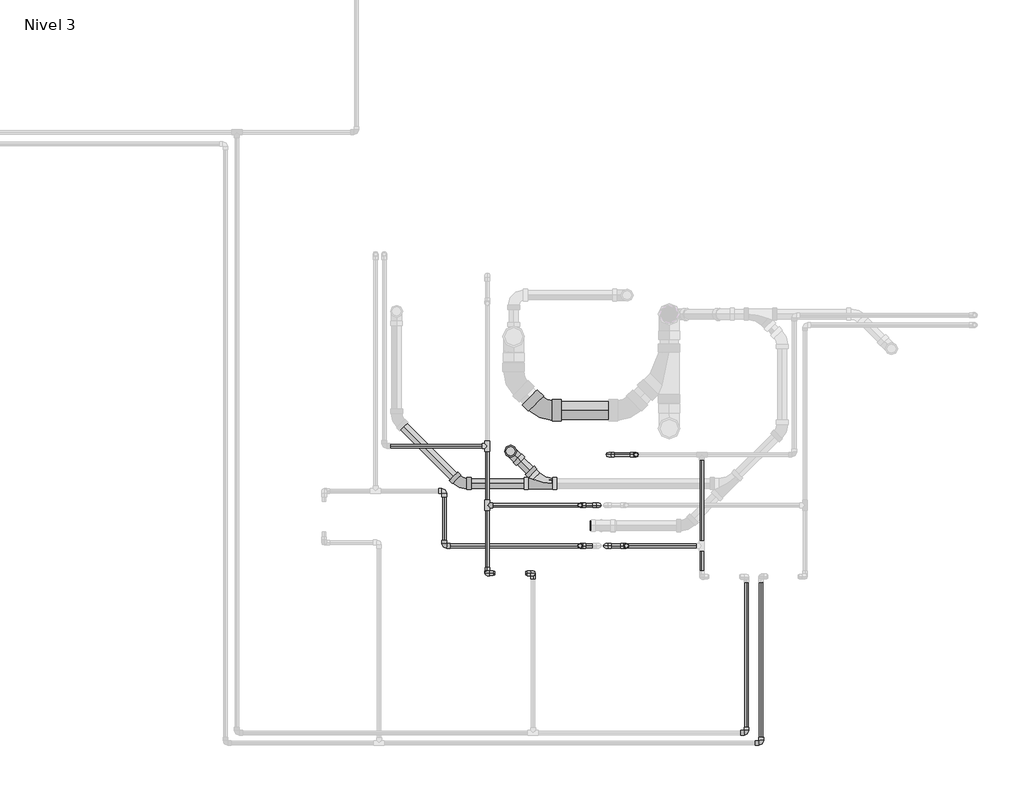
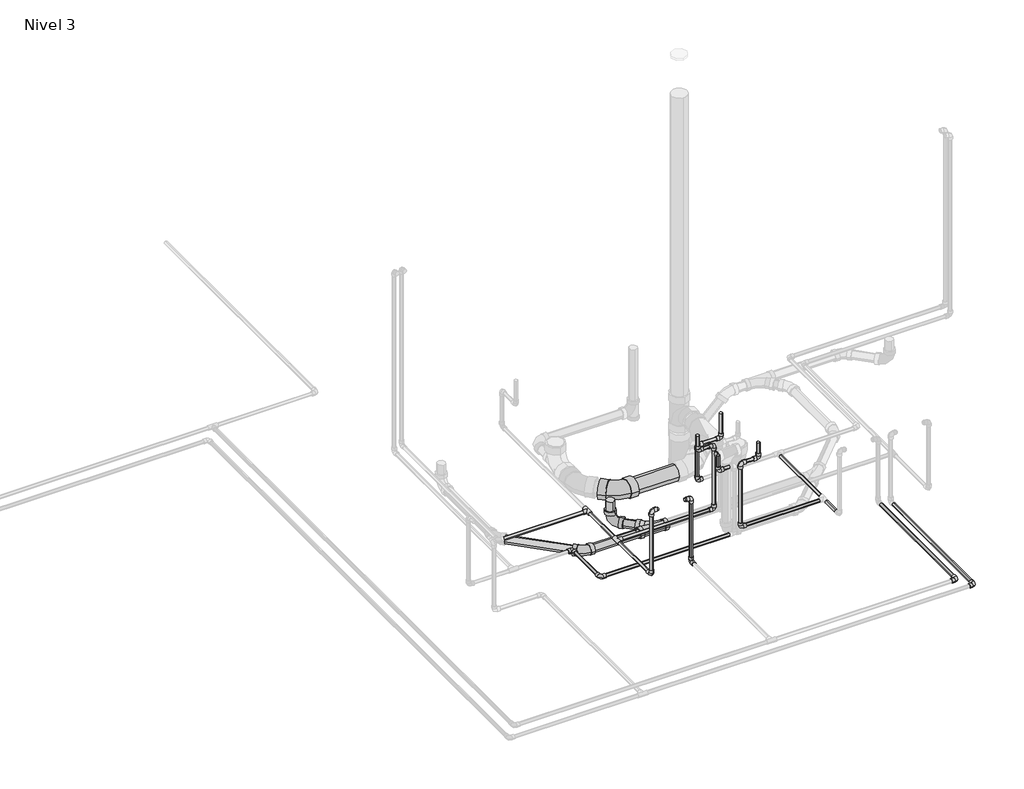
# One storey, part 2 of 9: 32 pipe segments, 24 pipe fittings.
"""IFC4 building model written with IfcOpenShell, lengths in millimetres."""

from ifc_helpers import new_model, si_unit, point, frame, frame_2d, origin, place, context, project, spatial, circle_curve, trimmed, segment, composite_curve, outline, extrude, transform, mapped, element, save
from components import pipe_fitting_ab418b84, pipe_fitting_0163322b, m_codo_pvc_serie_40_9ad74631, m_codo_pvc_serie_40_ba05d404, m_codo_pvc_serie_40_dwv1_5c0ec739, m_codo_pvc_serie_40_dwv1_9a7ca077, m_codo_pvc_serie_40_dwv1_6f1a2495

model = new_model("IFC4")

# Units and contexts
model_context = context("Model", 3, world=origin())
ifc_project = project(units=[si_unit("LENGTHUNIT", "METRE", prefix="MILLI")], contexts=[model_context])

# Site, building, storey
site = spatial("IfcSite", under=ifc_project)
building = spatial("IfcBuilding", under=site)
storey = spatial("IfcBuildingStorey", under=building, Name="Nivel 3", Elevation=5450.0)

# Pipe fittings
placement = place(None, origin())
pipe_fitting_shape = pipe_fitting_ab418b84(model_context)
element("IfcPipeFitting", 1, ObjectType="M_Te - PVC - Serie 40 : Estándar", at=placement, inside=storey, context=model_context, shape_type="MappedRepresentation", body=[
    mapped(pipe_fitting_shape, transform((6373.4849581, 5443.3784167, 5400.0), x_axis=(0.0, 1.0, 0.0), y_axis=(-1.0, 0.0, 0.0), z_axis=(0.0, 0.0, 1.0))),
])
element("IfcPipeFitting", 2, ObjectType="M_Te - PVC - Serie 40 : Estándar", at=placement, inside=storey, context=model_context, shape_type="MappedRepresentation", body=[
    mapped(pipe_fitting_shape, transform((6373.4849581, 5788.5620607, 5400.0), x_axis=(0.0, 1.0, 0.0), y_axis=(1.0, 0.0, 0.0), z_axis=(0.0, 0.0, -1.0))),
])
pipe_fitting_2_shape = pipe_fitting_0163322b(model_context)
element("IfcPipeFitting", 3, ObjectType="M_Sanitario con te de reducción - PVC - Serie 40 - DWV : Estándar", at=placement, inside=storey, context=model_context, shape_type="MappedRepresentation", body=[
    mapped(pipe_fitting_2_shape, transform((6697.357966, 5569.8260974, 5300.0), x_axis=(-1.0, 0.0, 0.0), y_axis=(0.0, -1.0, 0.0), z_axis=(0.0, 0.0, 1.0))),
])
m_codo_pvc_serie_40_shape = m_codo_pvc_serie_40_9ad74631(model_context)
element("IfcPipeFitting", 4, ObjectType="M_Codo - PVC - Serie 40 : Estándar", at=placement, inside=storey, context=model_context, shape_type="MappedRepresentation", body=[
    mapped(m_codo_pvc_serie_40_shape, transform((6913.1208859, 5443.3784167, 5850.0), x_axis=(0.0, 0.0, -1.0), y_axis=(1.0, 0.0, 0.0), z_axis=(0.0, -1.0, 0.0))),
])
element("IfcPipeFitting", 5, ObjectType="M_Codo - PVC - Serie 40 : Estándar", at=placement, inside=storey, context=model_context, shape_type="MappedRepresentation", body=[
    mapped(m_codo_pvc_serie_40_shape, transform((7022.0365713, 5443.3784167, 5850.0), x_axis=(1.0, 0.0, 0.0), y_axis=(0.0, 0.0, -1.0), z_axis=(0.0, 1.0, 0.0))),
])
element("IfcPipeFitting", 6, ObjectType="M_Codo - PVC - Serie 40 : Estándar", at=placement, inside=storey, context=model_context, shape_type="MappedRepresentation", body=[
    mapped(m_codo_pvc_serie_40_shape, transform((6640.0882468, 5047.0181394, 5400.0), x_axis=(0.0, 1.0, 0.0), y_axis=(0.0, 0.0, 1.0), z_axis=(1.0, 0.0, 0.0))),
])
element("IfcPipeFitting", 7, ObjectType="M_Codo - PVC - Serie 40 : Estándar", at=placement, inside=storey, context=model_context, shape_type="MappedRepresentation", body=[
    mapped(m_codo_pvc_serie_40_shape, transform((6640.0882468, 5047.0181394, 5850.0), x_axis=(0.0, 0.0, 1.0), y_axis=(-1.0, 0.0, 0.0), z_axis=(0.0, -1.0, 0.0))),
])
element("IfcPipeFitting", 8, ObjectType="M_Codo - PVC - Serie 40 : Estándar", at=placement, inside=storey, context=model_context, shape_type="MappedRepresentation", body=[
    mapped(m_codo_pvc_serie_40_shape, transform((6373.4849581, 5047.0181394, 5850.0), x_axis=(-1.0, 0.0, 0.0), y_axis=(0.0, 0.0, -1.0), z_axis=(0.0, -1.0, 0.0))),
])
element("IfcPipeFitting", 9, ObjectType="M_Codo - PVC - Serie 40 : Estándar", at=placement, inside=storey, context=model_context, shape_type="MappedRepresentation", body=[
    mapped(m_codo_pvc_serie_40_shape, transform((6373.4849581, 5047.0181394, 5400.0), x_axis=(0.0, 0.0, -1.0), y_axis=(0.0, 1.0, 0.0), z_axis=(1.0, 0.0, 0.0))),
])
element("IfcPipeFitting", 10, ObjectType="M_Codo - PVC - Serie 40 : Estándar", at=placement, inside=storey, context=model_context, shape_type="MappedRepresentation", body=[
    mapped(m_codo_pvc_serie_40_shape, transform((7022.0365713, 5443.3784167, 5400.0), x_axis=(0.0, 0.0, -1.0), y_axis=(-1.0, 0.0, 0.0), z_axis=(0.0, 1.0, 0.0))),
])
element("IfcPipeFitting", 11, ObjectType="M_Codo - PVC - Serie 40 : Estándar", at=placement, inside=storey, context=model_context, shape_type="MappedRepresentation", body=[
    mapped(m_codo_pvc_serie_40_shape, transform((7239.3408631, 5738.1215351, 5650.0), x_axis=(0.0, 0.0, -1.0), y_axis=(-1.0, 0.0, 0.0), z_axis=(0.0, 1.0, 0.0))),
])
element("IfcPipeFitting", 12, ObjectType="M_Codo - PVC - Serie 40 : Estándar", at=placement, inside=storey, context=model_context, shape_type="MappedRepresentation", body=[
    mapped(m_codo_pvc_serie_40_shape, transform((7079.3408631, 5738.1215351, 5650.0), x_axis=(-1.0, 0.0, 0.0), y_axis=(0.0, 0.0, -1.0), z_axis=(0.0, -1.0, 0.0))),
])
element("IfcPipeFitting", 13, ObjectType="M_Codo - PVC - Serie 40 : Estándar", at=placement, inside=storey, context=model_context, shape_type="MappedRepresentation", body=[
    mapped(m_codo_pvc_serie_40_shape, transform((7079.3408631, 5738.1215351, 5400.0), x_axis=(0.0, 0.0, -1.0), y_axis=(1.0, 0.0, 0.0), z_axis=(0.0, -1.0, 0.0))),
])
element("IfcPipeFitting", 14, ObjectType="M_Codo - PVC - Serie 40 : Estándar", at=placement, inside=storey, context=model_context, shape_type="MappedRepresentation", body=[
    mapped(m_codo_pvc_serie_40_shape, transform((7182.9224126, 5206.6215833, 5850.0), x_axis=(0.0, 0.0, -1.0), y_axis=(-1.0, 0.0, 0.0), z_axis=(0.0, 1.0, 0.0))),
])
element("IfcPipeFitting", 15, ObjectType="M_Codo - PVC - Serie 40 : Estándar", at=placement, inside=storey, context=model_context, shape_type="MappedRepresentation", body=[
    mapped(m_codo_pvc_serie_40_shape, transform((7062.9224126, 5206.6215833, 5850.0), x_axis=(-1.0, 0.0, 0.0), y_axis=(0.0, 0.0, -1.0), z_axis=(0.0, -1.0, 0.0))),
])
element("IfcPipeFitting", 16, ObjectType="M_Codo - PVC - Serie 40 : Estándar", at=placement, inside=storey, context=model_context, shape_type="MappedRepresentation", body=[
    mapped(m_codo_pvc_serie_40_shape, transform((7062.9224126, 5206.6215833, 5400.0), x_axis=(0.0, 0.0, -1.0), y_axis=(1.0, 0.0, 0.0), z_axis=(0.0, -1.0, 0.0))),
])
element("IfcPipeFitting", 17, ObjectType="M_Codo - PVC - Serie 40 : Estándar", at=placement, inside=storey, context=model_context, shape_type="MappedRepresentation", body=[
    mapped(m_codo_pvc_serie_40_shape, transform((7882.9224126, 4117.0181394, 5400.0), x_axis=(1.0, 0.0, 0.0), y_axis=(0.0, 1.0, 0.0), z_axis=(0.0, 0.0, 1.0))),
])
element("IfcPipeFitting", 18, ObjectType="M_Codo - PVC - Serie 40 : Estándar", at=placement, inside=storey, context=model_context, shape_type="MappedRepresentation", body=[
    mapped(m_codo_pvc_serie_40_shape, transform((7968.2736664, 4058.5261191, 5370.0), x_axis=(1.0, 0.0, 0.0), y_axis=(0.0, 1.0, 0.0), z_axis=(0.0, 0.0, 1.0))),
])
element("IfcPipeFitting", 19, ObjectType="M_Codo - PVC - Serie 40 : Estándar", at=placement, inside=storey, context=model_context, shape_type="MappedRepresentation", body=[
    mapped(m_codo_pvc_serie_40_shape, transform((6123.2442783, 5526.6215833, 5370.0), x_axis=(0.0, 1.0, 0.0), y_axis=(-1.0, 0.0, 0.0), z_axis=(0.0, 0.0, 1.0))),
])
element("IfcPipeFitting", 20, ObjectType="M_Codo - PVC - Serie 40 : Estándar", at=placement, inside=storey, context=model_context, shape_type="MappedRepresentation", body=[
    mapped(m_codo_pvc_serie_40_shape, transform((6123.2442783, 5206.6215833, 5370.0), x_axis=(0.0, -1.0, 0.0), y_axis=(1.0, 0.0, 0.0), z_axis=(0.0, 0.0, 1.0))),
])
m_codo_pvc_serie_40_2_shape = m_codo_pvc_serie_40_ba05d404(model_context)
element("IfcPipeFitting", 21, ObjectType="M_Codo - PVC - Serie 40 : Estándar", at=placement, inside=storey, context=model_context, shape_type="MappedRepresentation", body=[
    mapped(m_codo_pvc_serie_40_2_shape, transform((6913.1208859, 5206.6215833, 5850.0), x_axis=(0.0, 0.0, -1.0), y_axis=(-1.0, 0.0, 0.0), z_axis=(0.0, 1.0, 0.0))),
])
m_codo_pvc_serie_40_dwv1_shape = m_codo_pvc_serie_40_dwv1_5c0ec739(model_context)
element("IfcPipeFitting", 22, ObjectType="M_Codo - PVC - Serie 40 - DWV1 : Estándar 2", at=placement, inside=storey, context=model_context, shape_type="MappedRepresentation", body=[
    mapped(m_codo_pvc_serie_40_dwv1_shape, transform((6509.082159, 5758.1019044, 5300.0), x_axis=(0.0, 0.0, -1.0), y_axis=(0.7071067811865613, -0.7071067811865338, 0.0), z_axis=(-0.7071067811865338, -0.7071067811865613, 0.0))),
])
m_codo_pvc_serie_40_dwv1_2_shape = m_codo_pvc_serie_40_dwv1_9a7ca077(model_context)
element("IfcPipeFitting", 23, ObjectType="M_Codo - PVC - Serie 40 - DWV1 : Estándar 2", at=placement, inside=storey, context=model_context, shape_type="MappedRepresentation", body=[
    mapped(m_codo_pvc_serie_40_dwv1_2_shape, transform((6696.5258369, 5996.1455314, 5300.0), x_axis=(0.7071067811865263, -0.7071067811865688, 0.0), y_axis=(0.7071067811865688, 0.7071067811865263, 0.0), z_axis=(0.0, 0.0, 1.0))),
])
m_codo_pvc_serie_40_dwv1_3_shape = m_codo_pvc_serie_40_dwv1_6f1a2495(model_context)
element("IfcPipeFitting", 24, ObjectType="M_Codo - PVC - Serie 40 - DWV1 : Estándar 2", at=placement, inside=storey, context=model_context, shape_type="MappedRepresentation", body=[
    mapped(m_codo_pvc_serie_40_dwv1_3_shape, transform((6219.5377594, 5569.8260974, 5300.0), x_axis=(0.7071067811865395, -0.7071067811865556, 0.0), y_axis=(0.7071067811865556, 0.7071067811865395, 0.0), z_axis=(0.0, 0.0, 1.0))),
])

# Pipe segments
element("IfcPipeSegment", 25, ObjectType="Tuberia PVC Agua Fria", at=placement, inside=storey, context=model_context, shape_type="SweptSolid", body=[
    extrude(outline(composite_curve([segment(trimmed(circle_curve(frame_2d((5443.3784167, 5400.0)), 10.31875), [point((5453.6971667, 5400.0))], [point((5443.3784167, 5389.68125))], False, "CARTESIAN"), True, "CONTINUOUS"), segment(trimmed(circle_curve(frame_2d((5443.3784167, 5400.0)), 10.31875), [point((5443.3784167, 5389.68125))], [point((5433.0596667, 5400.0))], False, "CARTESIAN"), True, "CONTINUOUS"), segment(trimmed(circle_curve(frame_2d((5443.3784167, 5400.0)), 10.31875), [point((5433.0596667, 5400.0))], [point((5443.3784167, 5410.31875))], False, "CARTESIAN"), True, "CONTINUOUS"), segment(trimmed(circle_curve(frame_2d((5443.3784167, 5400.0)), 10.31875), [point((5443.3784167, 5410.31875))], [point((5453.6971667, 5400.0))], False, "CARTESIAN"), True, "CONTINUOUS")], self_intersect=False)), frame((6403.9451144, 0.0, 0.0), z_axis=(1.0, 0.0, 0.0), x_axis=(0.0, 1.0, 0.0)), (0.0, 0.0, 1.0), 584.6904569),
])
element("IfcPipeSegment", 26, ObjectType="Tuberia PVC Agua Fria", at=placement, inside=storey, context=model_context, shape_type="SweptSolid", body=[
    extrude(outline(composite_curve([segment(trimmed(circle_curve(frame_2d((5443.3784167, 5850.0)), 10.31875), [point((5433.0596667, 5850.0))], [point((5443.3784167, 5860.31875))], False, "CARTESIAN"), True, "CONTINUOUS"), segment(trimmed(circle_curve(frame_2d((5443.3784167, 5850.0)), 10.31875), [point((5443.3784167, 5860.31875))], [point((5453.6971667, 5850.0))], False, "CARTESIAN"), True, "CONTINUOUS"), segment(trimmed(circle_curve(frame_2d((5443.3784167, 5850.0)), 10.31875), [point((5453.6971667, 5850.0))], [point((5443.3784167, 5839.68125))], False, "CARTESIAN"), True, "CONTINUOUS"), segment(trimmed(circle_curve(frame_2d((5443.3784167, 5850.0)), 10.31875), [point((5443.3784167, 5839.68125))], [point((5433.0596667, 5850.0))], False, "CARTESIAN"), True, "CONTINUOUS")], self_intersect=False)), frame((6946.5218859, 0.0, 0.0), z_axis=(1.0, 0.0, 0.0), x_axis=(0.0, 1.0, 0.0)), (0.0, 0.0, 1.0), 42.1136854),
])
element("IfcPipeSegment", 27, ObjectType="Tuberia PVC Agua Fria", at=placement, inside=storey, context=model_context, shape_type="SweptSolid", body=[
    extrude(outline(composite_curve([segment(trimmed(circle_curve(frame_2d((6913.1208859, 5443.3784167)), 10.31875), [point((6923.4396359, 5443.3784167))], [point((6913.1208859, 5433.0596667))], False, "CARTESIAN"), True, "CONTINUOUS"), segment(trimmed(circle_curve(frame_2d((6913.1208859, 5443.3784167)), 10.31875), [point((6913.1208859, 5433.0596667))], [point((6902.8021359, 5443.3784167))], False, "CARTESIAN"), True, "CONTINUOUS"), segment(trimmed(circle_curve(frame_2d((6913.1208859, 5443.3784167)), 10.31875), [point((6902.8021359, 5443.3784167))], [point((6913.1208859, 5453.6971667))], False, "CARTESIAN"), True, "CONTINUOUS"), segment(trimmed(circle_curve(frame_2d((6913.1208859, 5443.3784167)), 10.31875), [point((6913.1208859, 5453.6971667))], [point((6923.4396359, 5443.3784167))], False, "CARTESIAN"), True, "CONTINUOUS")], self_intersect=False)), frame((0.0, 0.0, 5883.401), z_axis=(0.0, 0.0, 1.0), x_axis=(1.0, 0.0, 0.0)), (0.0, 0.0, 1.0), 74.0983614),
])
element("IfcPipeSegment", 28, ObjectType="Tuberia PVC Agua Fria", at=placement, inside=storey, context=model_context, shape_type="SweptSolid", body=[
    extrude(outline(composite_curve([segment(trimmed(circle_curve(frame_2d((7022.0365713, 5443.3784167)), 10.31875), [point((7032.3553213, 5443.3784167))], [point((7022.0365713, 5433.0596667))], False, "CARTESIAN"), True, "CONTINUOUS"), segment(trimmed(circle_curve(frame_2d((7022.0365713, 5443.3784167)), 10.31875), [point((7022.0365713, 5433.0596667))], [point((7011.7178213, 5443.3784167))], False, "CARTESIAN"), True, "CONTINUOUS"), segment(trimmed(circle_curve(frame_2d((7022.0365713, 5443.3784167)), 10.31875), [point((7011.7178213, 5443.3784167))], [point((7022.0365713, 5453.6971667))], False, "CARTESIAN"), True, "CONTINUOUS"), segment(trimmed(circle_curve(frame_2d((7022.0365713, 5443.3784167)), 10.31875), [point((7022.0365713, 5453.6971667))], [point((7032.3553213, 5443.3784167))], False, "CARTESIAN"), True, "CONTINUOUS")], self_intersect=False)), frame((0.0, 0.0, 5433.401), z_axis=(0.0, 0.0, 1.0), x_axis=(1.0, 0.0, 0.0)), (0.0, 0.0, 1.0), 383.198),
])
element("IfcPipeSegment", 29, ObjectType="Tuberia PVC Agua Fria", at=placement, inside=storey, context=model_context, shape_type="SweptSolid", body=[
    extrude(outline(composite_curve([segment(trimmed(circle_curve(frame_2d((5047.0181394, 5850.0)), 10.31875), [point((5057.3368894, 5850.0))], [point((5047.0181394, 5839.68125))], False, "CARTESIAN"), True, "CONTINUOUS"), segment(trimmed(circle_curve(frame_2d((5047.0181394, 5850.0)), 10.31875), [point((5047.0181394, 5839.68125))], [point((5036.6993894, 5850.0))], False, "CARTESIAN"), True, "CONTINUOUS"), segment(trimmed(circle_curve(frame_2d((5047.0181394, 5850.0)), 10.31875), [point((5036.6993894, 5850.0))], [point((5047.0181394, 5860.31875))], False, "CARTESIAN"), True, "CONTINUOUS"), segment(trimmed(circle_curve(frame_2d((5047.0181394, 5850.0)), 10.31875), [point((5047.0181394, 5860.31875))], [point((5057.3368894, 5850.0))], False, "CARTESIAN"), True, "CONTINUOUS")], self_intersect=False)), frame((6406.8859581, 0.0, 0.0), z_axis=(1.0, 0.0, 0.0), x_axis=(0.0, 1.0, 0.0)), (0.0, 0.0, 1.0), 10.9006444),
])
element("IfcPipeSegment", 30, ObjectType="Tuberia PVC Agua Fria", at=placement, inside=storey, context=model_context, shape_type="SweptSolid", body=[
    extrude(outline(composite_curve([segment(trimmed(circle_curve(frame_2d((6640.0882468, 5047.0181394)), 10.31875), [point((6629.7694968, 5047.0181394))], [point((6640.0882468, 5057.3368894))], False, "CARTESIAN"), True, "CONTINUOUS"), segment(trimmed(circle_curve(frame_2d((6640.0882468, 5047.0181394)), 10.31875), [point((6640.0882468, 5057.3368894))], [point((6650.4069968, 5047.0181394))], False, "CARTESIAN"), True, "CONTINUOUS"), segment(trimmed(circle_curve(frame_2d((6640.0882468, 5047.0181394)), 10.31875), [point((6650.4069968, 5047.0181394))], [point((6640.0882468, 5036.6993894))], False, "CARTESIAN"), True, "CONTINUOUS"), segment(trimmed(circle_curve(frame_2d((6640.0882468, 5047.0181394)), 10.31875), [point((6640.0882468, 5036.6993894))], [point((6629.7694968, 5047.0181394))], False, "CARTESIAN"), True, "CONTINUOUS")], self_intersect=False)), frame((0.0, 0.0, 5433.401), z_axis=(0.0, 0.0, 1.0), x_axis=(1.0, 0.0, 0.0)), (0.0, 0.0, 1.0), 383.198),
])
element("IfcPipeSegment", 31, ObjectType="Tuberia PVC Agua Fria", at=placement, inside=storey, context=model_context, shape_type="SweptSolid", body=[
    extrude(outline(composite_curve([segment(trimmed(circle_curve(frame_2d((6373.4849581, 5047.0181394)), 10.31875), [point((6383.8037081, 5047.0181394))], [point((6373.4849581, 5036.6993894))], False, "CARTESIAN"), True, "CONTINUOUS"), segment(trimmed(circle_curve(frame_2d((6373.4849581, 5047.0181394)), 10.31875), [point((6373.4849581, 5036.6993894))], [point((6363.1662081, 5047.0181394))], False, "CARTESIAN"), True, "CONTINUOUS"), segment(trimmed(circle_curve(frame_2d((6373.4849581, 5047.0181394)), 10.31875), [point((6363.1662081, 5047.0181394))], [point((6373.4849581, 5057.3368894))], False, "CARTESIAN"), True, "CONTINUOUS"), segment(trimmed(circle_curve(frame_2d((6373.4849581, 5047.0181394)), 10.31875), [point((6373.4849581, 5057.3368894))], [point((6383.8037081, 5047.0181394))], False, "CARTESIAN"), True, "CONTINUOUS")], self_intersect=False)), frame((0.0, 0.0, 5433.401), z_axis=(0.0, 0.0, 1.0), x_axis=(1.0, 0.0, 0.0)), (0.0, 0.0, 1.0), 383.198),
])
element("IfcPipeSegment", 32, ObjectType="Tuberia PVC Agua Fria", at=placement, inside=storey, context=model_context, shape_type="SweptSolid", body=[
    extrude(outline(composite_curve([segment(trimmed(circle_curve(frame_2d((5400.0, 6373.4849581)), 10.31875), [point((5400.0, 6383.8037081))], [point((5410.31875, 6373.4849581))], False, "CARTESIAN"), True, "CONTINUOUS"), segment(trimmed(circle_curve(frame_2d((5400.0, 6373.4849581)), 10.31875), [point((5410.31875, 6373.4849581))], [point((5400.0, 6363.1662081))], False, "CARTESIAN"), True, "CONTINUOUS"), segment(trimmed(circle_curve(frame_2d((5400.0, 6373.4849581)), 10.31875), [point((5400.0, 6363.1662081))], [point((5389.68125, 6373.4849581))], False, "CARTESIAN"), True, "CONTINUOUS"), segment(trimmed(circle_curve(frame_2d((5400.0, 6373.4849581)), 10.31875), [point((5389.68125, 6373.4849581))], [point((5400.0, 6383.8037081))], False, "CARTESIAN"), True, "CONTINUOUS")], self_intersect=False)), frame((0.0, 5080.4191394, 0.0), z_axis=(0.0, 1.0, 0.0), x_axis=(0.0, 0.0, 1.0)), (0.0, 0.0, 1.0), 332.4991211),
])
element("IfcPipeSegment", 33, ObjectType="Tuberia PVC Agua Fria", at=placement, inside=storey, context=model_context, shape_type="SweptSolid", body=[
    extrude(outline(composite_curve([segment(trimmed(circle_curve(frame_2d((5738.1215351, 5650.0)), 10.31875), [point((5748.4402851, 5650.0))], [point((5738.1215351, 5639.68125))], False, "CARTESIAN"), True, "CONTINUOUS"), segment(trimmed(circle_curve(frame_2d((5738.1215351, 5650.0)), 10.31875), [point((5738.1215351, 5639.68125))], [point((5727.8027851, 5650.0))], False, "CARTESIAN"), True, "CONTINUOUS"), segment(trimmed(circle_curve(frame_2d((5738.1215351, 5650.0)), 10.31875), [point((5727.8027851, 5650.0))], [point((5738.1215351, 5660.31875))], False, "CARTESIAN"), True, "CONTINUOUS"), segment(trimmed(circle_curve(frame_2d((5738.1215351, 5650.0)), 10.31875), [point((5738.1215351, 5660.31875))], [point((5748.4402851, 5650.0))], False, "CARTESIAN"), True, "CONTINUOUS")], self_intersect=False)), frame((7112.7418631, 0.0, 0.0), z_axis=(1.0, 0.0, 0.0), x_axis=(0.0, 1.0, 0.0)), (0.0, 0.0, 1.0), 93.198),
])
element("IfcPipeSegment", 34, ObjectType="Tuberia PVC Agua Fria", at=placement, inside=storey, context=model_context, shape_type="SweptSolid", body=[
    extrude(outline(composite_curve([segment(trimmed(circle_curve(frame_2d((7239.3408631, 5738.1215351)), 10.31875), [point((7249.6596131, 5738.1215351))], [point((7239.3408631, 5727.8027851))], False, "CARTESIAN"), True, "CONTINUOUS"), segment(trimmed(circle_curve(frame_2d((7239.3408631, 5738.1215351)), 10.31875), [point((7239.3408631, 5727.8027851))], [point((7229.0221131, 5738.1215351))], False, "CARTESIAN"), True, "CONTINUOUS"), segment(trimmed(circle_curve(frame_2d((7239.3408631, 5738.1215351)), 10.31875), [point((7229.0221131, 5738.1215351))], [point((7239.3408631, 5748.4402851))], False, "CARTESIAN"), True, "CONTINUOUS"), segment(trimmed(circle_curve(frame_2d((7239.3408631, 5738.1215351)), 10.31875), [point((7239.3408631, 5748.4402851))], [point((7249.6596131, 5738.1215351))], False, "CARTESIAN"), True, "CONTINUOUS")], self_intersect=False)), frame((0.0, 0.0, 5683.401), z_axis=(0.0, 0.0, 1.0), x_axis=(1.0, 0.0, 0.0)), (0.0, 0.0, 1.0), 139.7562509),
])
element("IfcPipeSegment", 35, ObjectType="Tuberia PVC Agua Fria", at=placement, inside=storey, context=model_context, shape_type="SweptSolid", body=[
    extrude(outline(composite_curve([segment(trimmed(circle_curve(frame_2d((7079.3408631, 5738.1215351)), 10.31875), [point((7089.6596131, 5738.1215351))], [point((7079.3408631, 5727.8027851))], False, "CARTESIAN"), True, "CONTINUOUS"), segment(trimmed(circle_curve(frame_2d((7079.3408631, 5738.1215351)), 10.31875), [point((7079.3408631, 5727.8027851))], [point((7069.0221131, 5738.1215351))], False, "CARTESIAN"), True, "CONTINUOUS"), segment(trimmed(circle_curve(frame_2d((7079.3408631, 5738.1215351)), 10.31875), [point((7069.0221131, 5738.1215351))], [point((7079.3408631, 5748.4402851))], False, "CARTESIAN"), True, "CONTINUOUS"), segment(trimmed(circle_curve(frame_2d((7079.3408631, 5738.1215351)), 10.31875), [point((7079.3408631, 5748.4402851))], [point((7089.6596131, 5738.1215351))], False, "CARTESIAN"), True, "CONTINUOUS")], self_intersect=False)), frame((0.0, 0.0, 5433.401), z_axis=(0.0, 0.0, 1.0), x_axis=(1.0, 0.0, 0.0)), (0.0, 0.0, 1.0), 183.198),
])
element("IfcPipeSegment", 36, ObjectType="Tuberia PVC Agua Fria", at=placement, inside=storey, context=model_context, shape_type="SweptSolid", body=[
    extrude(outline(composite_curve([segment(trimmed(circle_curve(frame_2d((5400.0, 7622.9224126)), 10.31875), [point((5400.0, 7633.2411626))], [point((5410.31875, 7622.9224126))], False, "CARTESIAN"), True, "CONTINUOUS"), segment(trimmed(circle_curve(frame_2d((5400.0, 7622.9224126)), 10.31875), [point((5410.31875, 7622.9224126))], [point((5400.0, 7612.6036626))], False, "CARTESIAN"), True, "CONTINUOUS"), segment(trimmed(circle_curve(frame_2d((5400.0, 7622.9224126)), 10.31875), [point((5400.0, 7612.6036626))], [point((5389.68125, 7622.9224126))], False, "CARTESIAN"), True, "CONTINUOUS"), segment(trimmed(circle_curve(frame_2d((5400.0, 7622.9224126)), 10.31875), [point((5389.68125, 7622.9224126))], [point((5400.0, 7633.2411626))], False, "CARTESIAN"), True, "CONTINUOUS")], self_intersect=False)), frame((0.0, 5237.0817396, 0.0), z_axis=(0.0, 1.0, 0.0), x_axis=(0.0, 0.0, 1.0)), (0.0, 0.0, 1.0), 470.5796393),
])
element("IfcPipeSegment", 37, ObjectType="Tuberia PVC Agua Fria", at=placement, inside=storey, context=model_context, shape_type="SweptSolid", body=[
    extrude(outline(composite_curve([segment(trimmed(circle_curve(frame_2d((5206.6215833, 5850.0)), 10.31875), [point((5216.9403333, 5850.0))], [point((5206.6215833, 5839.68125))], False, "CARTESIAN"), True, "CONTINUOUS"), segment(trimmed(circle_curve(frame_2d((5206.6215833, 5850.0)), 10.31875), [point((5206.6215833, 5839.68125))], [point((5196.3028333, 5850.0))], False, "CARTESIAN"), True, "CONTINUOUS"), segment(trimmed(circle_curve(frame_2d((5206.6215833, 5850.0)), 10.31875), [point((5196.3028333, 5850.0))], [point((5206.6215833, 5860.31875))], False, "CARTESIAN"), True, "CONTINUOUS"), segment(trimmed(circle_curve(frame_2d((5206.6215833, 5850.0)), 10.31875), [point((5206.6215833, 5860.31875))], [point((5216.9403333, 5850.0))], False, "CARTESIAN"), True, "CONTINUOUS")], self_intersect=False)), frame((7096.3234126, 0.0, 0.0), z_axis=(1.0, 0.0, 0.0), x_axis=(0.0, 1.0, 0.0)), (0.0, 0.0, 1.0), 53.198),
])
element("IfcPipeSegment", 38, ObjectType="Tuberia PVC Agua Fria", at=placement, inside=storey, context=model_context, shape_type="SweptSolid", body=[
    extrude(outline(composite_curve([segment(trimmed(circle_curve(frame_2d((7182.9224126, 5206.6215833)), 10.31875), [point((7193.2411626, 5206.6215833))], [point((7182.9224126, 5196.3028333))], False, "CARTESIAN"), True, "CONTINUOUS"), segment(trimmed(circle_curve(frame_2d((7182.9224126, 5206.6215833)), 10.31875), [point((7182.9224126, 5196.3028333))], [point((7172.6036626, 5206.6215833))], False, "CARTESIAN"), True, "CONTINUOUS"), segment(trimmed(circle_curve(frame_2d((7182.9224126, 5206.6215833)), 10.31875), [point((7172.6036626, 5206.6215833))], [point((7182.9224126, 5216.9403333))], False, "CARTESIAN"), True, "CONTINUOUS"), segment(trimmed(circle_curve(frame_2d((7182.9224126, 5206.6215833)), 10.31875), [point((7182.9224126, 5216.9403333))], [point((7193.2411626, 5206.6215833))], False, "CARTESIAN"), True, "CONTINUOUS")], self_intersect=False)), frame((0.0, 0.0, 5883.401), z_axis=(0.0, 0.0, 1.0), x_axis=(1.0, 0.0, 0.0)), (0.0, 0.0, 1.0), 74.0983614),
])
element("IfcPipeSegment", 39, ObjectType="Tuberia PVC Agua Fria", at=placement, inside=storey, context=model_context, shape_type="SweptSolid", body=[
    extrude(outline(composite_curve([segment(trimmed(circle_curve(frame_2d((5206.6215833, 5400.0)), 10.31875), [point((5196.3028333, 5400.0))], [point((5206.6215833, 5410.31875))], False, "CARTESIAN"), True, "CONTINUOUS"), segment(trimmed(circle_curve(frame_2d((5206.6215833, 5400.0)), 10.31875), [point((5206.6215833, 5410.31875))], [point((5216.9403333, 5400.0))], False, "CARTESIAN"), True, "CONTINUOUS"), segment(trimmed(circle_curve(frame_2d((5206.6215833, 5400.0)), 10.31875), [point((5216.9403333, 5400.0))], [point((5206.6215833, 5389.68125))], False, "CARTESIAN"), True, "CONTINUOUS"), segment(trimmed(circle_curve(frame_2d((5206.6215833, 5400.0)), 10.31875), [point((5206.6215833, 5389.68125))], [point((5196.3028333, 5400.0))], False, "CARTESIAN"), True, "CONTINUOUS")], self_intersect=False)), frame((7096.3234126, 0.0, 0.0), z_axis=(1.0, 0.0, 0.0), x_axis=(0.0, 1.0, 0.0)), (0.0, 0.0, 1.0), 496.1388438),
])
element("IfcPipeSegment", 40, ObjectType="Tuberia PVC Agua Fria", at=placement, inside=storey, context=model_context, shape_type="SweptSolid", body=[
    extrude(outline(composite_curve([segment(trimmed(circle_curve(frame_2d((7062.9224126, 5206.6215833)), 10.31875), [point((7073.2411626, 5206.6215833))], [point((7062.9224126, 5196.3028333))], False, "CARTESIAN"), True, "CONTINUOUS"), segment(trimmed(circle_curve(frame_2d((7062.9224126, 5206.6215833)), 10.31875), [point((7062.9224126, 5196.3028333))], [point((7052.6036626, 5206.6215833))], False, "CARTESIAN"), True, "CONTINUOUS"), segment(trimmed(circle_curve(frame_2d((7062.9224126, 5206.6215833)), 10.31875), [point((7052.6036626, 5206.6215833))], [point((7062.9224126, 5216.9403333))], False, "CARTESIAN"), True, "CONTINUOUS"), segment(trimmed(circle_curve(frame_2d((7062.9224126, 5206.6215833)), 10.31875), [point((7062.9224126, 5216.9403333))], [point((7073.2411626, 5206.6215833))], False, "CARTESIAN"), True, "CONTINUOUS")], self_intersect=False)), frame((0.0, 0.0, 5433.401), z_axis=(0.0, 0.0, 1.0), x_axis=(1.0, 0.0, 0.0)), (0.0, 0.0, 1.0), 383.198),
])
element("IfcPipeSegment", 41, ObjectType="Tuberia PVC Agua Fria", at=placement, inside=storey, context=model_context, shape_type="SweptSolid", body=[
    extrude(outline(composite_curve([segment(trimmed(circle_curve(frame_2d((5400.0, 7622.9224126)), 10.31875), [point((5400.0, 7612.6036626))], [point((5389.68125, 7622.9224126))], False, "CARTESIAN"), True, "CONTINUOUS"), segment(trimmed(circle_curve(frame_2d((5400.0, 7622.9224126)), 10.31875), [point((5389.68125, 7622.9224126))], [point((5400.0, 7633.2411626))], False, "CARTESIAN"), True, "CONTINUOUS"), segment(trimmed(circle_curve(frame_2d((5400.0, 7622.9224126)), 10.31875), [point((5400.0, 7633.2411626))], [point((5410.31875, 7622.9224126))], False, "CARTESIAN"), True, "CONTINUOUS"), segment(trimmed(circle_curve(frame_2d((5400.0, 7622.9224126)), 10.31875), [point((5410.31875, 7622.9224126))], [point((5400.0, 7612.6036626))], False, "CARTESIAN"), True, "CONTINUOUS")], self_intersect=False)), frame((0.0, 5060.0225833, 0.0), z_axis=(0.0, 1.0, 0.0), x_axis=(0.0, 0.0, 1.0)), (0.0, 0.0, 1.0), 116.1388438),
])
element("IfcPipeSegment", 42, ObjectType="Tuberia PVC Agua Fria", at=placement, inside=storey, context=model_context, shape_type="SweptSolid", body=[
    extrude(outline(composite_curve([segment(trimmed(circle_curve(frame_2d((5400.0, 7882.9224126)), 10.31875), [point((5400.0, 7872.6036626))], [point((5389.68125, 7882.9224126))], False, "CARTESIAN"), True, "CONTINUOUS"), segment(trimmed(circle_curve(frame_2d((5400.0, 7882.9224126)), 10.31875), [point((5389.68125, 7882.9224126))], [point((5400.0, 7893.2411626))], False, "CARTESIAN"), True, "CONTINUOUS"), segment(trimmed(circle_curve(frame_2d((5400.0, 7882.9224126)), 10.31875), [point((5400.0, 7893.2411626))], [point((5410.31875, 7882.9224126))], False, "CARTESIAN"), True, "CONTINUOUS"), segment(trimmed(circle_curve(frame_2d((5400.0, 7882.9224126)), 10.31875), [point((5410.31875, 7882.9224126))], [point((5400.0, 7872.6036626))], False, "CARTESIAN"), True, "CONTINUOUS")], self_intersect=False)), frame((0.0, 4150.4191394, 0.0), z_axis=(0.0, 1.0, 0.0), x_axis=(0.0, 0.0, 1.0)), (0.0, 0.0, 1.0), 842.801444),
])
element("IfcPipeSegment", 43, ObjectType="Tuberia PVC Agua Fria", at=placement, inside=storey, context=model_context, shape_type="SweptSolid", body=[
    extrude(outline(composite_curve([segment(trimmed(circle_curve(frame_2d((5788.5620607, 5400.0)), 10.31875), [point((5798.8808107, 5400.0))], [point((5788.5620607, 5389.68125))], False, "CARTESIAN"), True, "CONTINUOUS"), segment(trimmed(circle_curve(frame_2d((5788.5620607, 5400.0)), 10.31875), [point((5788.5620607, 5389.68125))], [point((5778.2433107, 5400.0))], False, "CARTESIAN"), True, "CONTINUOUS"), segment(trimmed(circle_curve(frame_2d((5788.5620607, 5400.0)), 10.31875), [point((5778.2433107, 5400.0))], [point((5788.5620607, 5410.31875))], False, "CARTESIAN"), True, "CONTINUOUS"), segment(trimmed(circle_curve(frame_2d((5788.5620607, 5400.0)), 10.31875), [point((5788.5620607, 5410.31875))], [point((5798.8808107, 5400.0))], False, "CARTESIAN"), True, "CONTINUOUS")], self_intersect=False)), frame((5806.8859581, 0.0, 0.0), z_axis=(1.0, 0.0, 0.0), x_axis=(0.0, 1.0, 0.0)), (0.0, 0.0, 1.0), 536.1388437),
])
element("IfcPipeSegment", 44, ObjectType="Tuberia PVC Agua Fria", at=placement, inside=storey, context=model_context, shape_type="SweptSolid", body=[
    extrude(outline(composite_curve([segment(trimmed(circle_curve(frame_2d((5400.0, 6373.4849581)), 10.31875), [point((5400.0, 6383.8037081))], [point((5410.31875, 6373.4849581))], False, "CARTESIAN"), True, "CONTINUOUS"), segment(trimmed(circle_curve(frame_2d((5400.0, 6373.4849581)), 10.31875), [point((5410.31875, 6373.4849581))], [point((5400.0, 6363.1662081))], False, "CARTESIAN"), True, "CONTINUOUS"), segment(trimmed(circle_curve(frame_2d((5400.0, 6373.4849581)), 10.31875), [point((5400.0, 6363.1662081))], [point((5389.68125, 6373.4849581))], False, "CARTESIAN"), True, "CONTINUOUS"), segment(trimmed(circle_curve(frame_2d((5400.0, 6373.4849581)), 10.31875), [point((5389.68125, 6373.4849581))], [point((5400.0, 6383.8037081))], False, "CARTESIAN"), True, "CONTINUOUS")], self_intersect=False)), frame((0.0, 5473.8385729, 0.0), z_axis=(0.0, 1.0, 0.0), x_axis=(0.0, 0.0, 1.0)), (0.0, 0.0, 1.0), 284.2633315),
])
element("IfcPipeSegment", 45, ObjectType="Tuberia PVC Agua Fria", at=placement, inside=storey, context=model_context, shape_type="SweptSolid", body=[
    extrude(outline(composite_curve([segment(trimmed(circle_curve(frame_2d((5047.0181394, 5850.0)), 10.31875), [point((5057.3368894, 5850.0))], [point((5047.0181394, 5839.68125))], False, "CARTESIAN"), True, "CONTINUOUS"), segment(trimmed(circle_curve(frame_2d((5047.0181394, 5850.0)), 10.31875), [point((5047.0181394, 5839.68125))], [point((5036.6993894, 5850.0))], False, "CARTESIAN"), True, "CONTINUOUS"), segment(trimmed(circle_curve(frame_2d((5047.0181394, 5850.0)), 10.31875), [point((5036.6993894, 5850.0))], [point((5047.0181394, 5860.31875))], False, "CARTESIAN"), True, "CONTINUOUS"), segment(trimmed(circle_curve(frame_2d((5047.0181394, 5850.0)), 10.31875), [point((5047.0181394, 5860.31875))], [point((5057.3368894, 5850.0))], False, "CARTESIAN"), True, "CONTINUOUS")], self_intersect=False)), frame((6595.7866025, 0.0, 0.0), z_axis=(1.0, 0.0, 0.0), x_axis=(0.0, 1.0, 0.0)), (0.0, 0.0, 1.0), 10.9006444),
])
element("IfcPipeSegment", 46, ObjectType="Tuberia PVC Agua Caliente", at=placement, inside=storey, context=model_context, shape_type="SweptSolid", body=[
    extrude(outline(composite_curve([segment(trimmed(circle_curve(frame_2d((5370.0, 7968.2736664)), 10.31875), [point((5370.0, 7978.5924164))], [point((5380.31875, 7968.2736664))], False, "CARTESIAN"), True, "CONTINUOUS"), segment(trimmed(circle_curve(frame_2d((5370.0, 7968.2736664)), 10.31875), [point((5380.31875, 7968.2736664))], [point((5370.0, 7957.9549164))], False, "CARTESIAN"), True, "CONTINUOUS"), segment(trimmed(circle_curve(frame_2d((5370.0, 7968.2736664)), 10.31875), [point((5370.0, 7957.9549164))], [point((5359.68125, 7968.2736664))], False, "CARTESIAN"), True, "CONTINUOUS"), segment(trimmed(circle_curve(frame_2d((5370.0, 7968.2736664)), 10.31875), [point((5359.68125, 7968.2736664))], [point((5370.0, 7978.5924164))], False, "CARTESIAN"), True, "CONTINUOUS")], self_intersect=False)), frame((0.0, 4091.9271191, 0.0), z_axis=(0.0, 1.0, 0.0), x_axis=(0.0, 0.0, 1.0)), (0.0, 0.0, 1.0), 903.198),
])
element("IfcPipeSegment", 47, ObjectType="Tuberia PVC Agua Caliente", at=placement, inside=storey, context=model_context, shape_type="SweptSolid", body=[
    extrude(outline(composite_curve([segment(trimmed(circle_curve(frame_2d((5206.6215833, 5370.0)), 10.31875), [point((5216.9403333, 5370.0))], [point((5206.6215833, 5359.68125))], False, "CARTESIAN"), True, "CONTINUOUS"), segment(trimmed(circle_curve(frame_2d((5206.6215833, 5370.0)), 10.31875), [point((5206.6215833, 5359.68125))], [point((5196.3028333, 5370.0))], False, "CARTESIAN"), True, "CONTINUOUS"), segment(trimmed(circle_curve(frame_2d((5206.6215833, 5370.0)), 10.31875), [point((5196.3028333, 5370.0))], [point((5206.6215833, 5380.31875))], False, "CARTESIAN"), True, "CONTINUOUS"), segment(trimmed(circle_curve(frame_2d((5206.6215833, 5370.0)), 10.31875), [point((5206.6215833, 5380.31875))], [point((5216.9403333, 5370.0))], False, "CARTESIAN"), True, "CONTINUOUS")], self_intersect=False)), frame((6156.6452783, 0.0, 0.0), z_axis=(1.0, 0.0, 0.0), x_axis=(0.0, 1.0, 0.0)), (0.0, 0.0, 1.0), 831.990293),
])
element("IfcPipeSegment", 48, ObjectType="Tuberia PVC Agua Caliente", at=placement, inside=storey, context=model_context, shape_type="SweptSolid", body=[
    extrude(outline(composite_curve([segment(trimmed(circle_curve(frame_2d((5206.6215833, 5850.0)), 10.31875), [point((5196.3028333, 5850.0))], [point((5206.6215833, 5860.31875))], False, "CARTESIAN"), True, "CONTINUOUS"), segment(trimmed(circle_curve(frame_2d((5206.6215833, 5850.0)), 10.31875), [point((5206.6215833, 5860.31875))], [point((5216.9403333, 5850.0))], False, "CARTESIAN"), True, "CONTINUOUS"), segment(trimmed(circle_curve(frame_2d((5206.6215833, 5850.0)), 10.31875), [point((5216.9403333, 5850.0))], [point((5206.6215833, 5839.68125))], False, "CARTESIAN"), True, "CONTINUOUS"), segment(trimmed(circle_curve(frame_2d((5206.6215833, 5850.0)), 10.31875), [point((5206.6215833, 5839.68125))], [point((5196.3028333, 5850.0))], False, "CARTESIAN"), True, "CONTINUOUS")], self_intersect=False)), frame((6946.5218859, 0.0, 0.0), z_axis=(1.0, 0.0, 0.0), x_axis=(0.0, 1.0, 0.0)), (0.0, 0.0, 1.0), 42.1136854),
])
element("IfcPipeSegment", 49, ObjectType="Tuberia PVC Agua Caliente", at=placement, inside=storey, context=model_context, shape_type="SweptSolid", body=[
    extrude(outline(composite_curve([segment(trimmed(circle_curve(frame_2d((6913.1208859, 5206.6215833)), 10.31875), [point((6923.4396359, 5206.6215833))], [point((6913.1208859, 5196.3028333))], False, "CARTESIAN"), True, "CONTINUOUS"), segment(trimmed(circle_curve(frame_2d((6913.1208859, 5206.6215833)), 10.31875), [point((6913.1208859, 5196.3028333))], [point((6902.8021359, 5206.6215833))], False, "CARTESIAN"), True, "CONTINUOUS"), segment(trimmed(circle_curve(frame_2d((6913.1208859, 5206.6215833)), 10.31875), [point((6902.8021359, 5206.6215833))], [point((6913.1208859, 5216.9403333))], False, "CARTESIAN"), True, "CONTINUOUS"), segment(trimmed(circle_curve(frame_2d((6913.1208859, 5206.6215833)), 10.31875), [point((6913.1208859, 5216.9403333))], [point((6923.4396359, 5206.6215833))], False, "CARTESIAN"), True, "CONTINUOUS")], self_intersect=False)), frame((0.0, 0.0, 5883.401), z_axis=(0.0, 0.0, 1.0), x_axis=(1.0, 0.0, 0.0)), (0.0, 0.0, 1.0), 74.0983614),
])
element("IfcPipeSegment", 50, ObjectType="Tuberia PVC Agua Caliente", at=placement, inside=storey, context=model_context, shape_type="SweptSolid", body=[
    extrude(outline(composite_curve([segment(trimmed(circle_curve(frame_2d((5370.0, 6123.2442783)), 10.31875), [point((5370.0, 6112.9255283))], [point((5359.68125, 6123.2442783))], False, "CARTESIAN"), True, "CONTINUOUS"), segment(trimmed(circle_curve(frame_2d((5370.0, 6123.2442783)), 10.31875), [point((5359.68125, 6123.2442783))], [point((5370.0, 6133.5630283))], False, "CARTESIAN"), True, "CONTINUOUS"), segment(trimmed(circle_curve(frame_2d((5370.0, 6123.2442783)), 10.31875), [point((5370.0, 6133.5630283))], [point((5380.31875, 6123.2442783))], False, "CARTESIAN"), True, "CONTINUOUS"), segment(trimmed(circle_curve(frame_2d((5370.0, 6123.2442783)), 10.31875), [point((5380.31875, 6123.2442783))], [point((5370.0, 6112.9255283))], False, "CARTESIAN"), True, "CONTINUOUS")], self_intersect=False)), frame((0.0, 5240.0225833, 0.0), z_axis=(0.0, 1.0, 0.0), x_axis=(0.0, 0.0, 1.0)), (0.0, 0.0, 1.0), 253.198),
])
element("IfcPipeSegment", 51, ObjectType="Tuberia PVC Sanitario", at=placement, inside=storey, context=model_context, shape_type="SweptSolid", body=[
    extrude(outline(composite_curve([segment(trimmed(circle_curve(frame_2d((5325.0, 5860.6716548)), 26.9875), [point((5298.0125, 5860.6716548))], [point((5325.0, 5887.6591548))], False, "CARTESIAN"), True, "CONTINUOUS"), segment(trimmed(circle_curve(frame_2d((5325.0, 5860.6716548)), 26.9875), [point((5325.0, 5887.6591548))], [point((5351.9875, 5860.6716548))], False, "CARTESIAN"), True, "CONTINUOUS"), segment(trimmed(circle_curve(frame_2d((5325.0, 5860.6716548)), 26.9875), [point((5351.9875, 5860.6716548))], [point((5325.0, 5833.6841548))], False, "CARTESIAN"), True, "CONTINUOUS"), segment(trimmed(circle_curve(frame_2d((5325.0, 5860.6716548)), 26.9875), [point((5325.0, 5833.6841548))], [point((5298.0125, 5860.6716548))], False, "CARTESIAN"), True, "CONTINUOUS")], self_intersect=False)), frame((6973.0216492, 0.0, 0.0), z_axis=(1.0, 0.0, 0.0), x_axis=(0.0, 1.0, 0.0)), (0.0, 0.0, 1.0), 5.3070105),
])
element("IfcPipeSegment", 52, ObjectType="Tuberia PVC Sanitario", at=placement, inside=storey, context=model_context, shape_type="SweptSolid", body=[
    extrude(outline(composite_curve([segment(trimmed(circle_curve(frame_2d((0.0, -26.9875)), 26.9875), [point((-26.9875, -26.9875))], [point((0.0, 0.0))], False, "CARTESIAN"), True, "CONTINUOUS"), segment(trimmed(circle_curve(frame_2d((0.0, -26.9875)), 26.9875), [point((0.0, 0.0))], [point((26.9875, -26.9875))], False, "CARTESIAN"), True, "CONTINUOUS"), segment(trimmed(circle_curve(frame_2d((0.0, -26.9875)), 26.9875), [point((26.9875, -26.9875))], [point((0.0, -53.975))], False, "CARTESIAN"), True, "CONTINUOUS"), segment(trimmed(circle_curve(frame_2d((0.0, -26.9875)), 26.9875), [point((0.0, -53.975))], [point((-26.9875, -26.9875))], False, "CARTESIAN"), True, "CONTINUOUS")], self_intersect=False)), frame((6620.3981562, 5646.7859072, 5273.0125), z_axis=(-0.7071067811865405, 0.7071067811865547, 0.0), x_axis=(0.7071067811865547, 0.7071067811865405, 0.0)), (0.0, 0.0, 1.0), 74.8825305),
])
element("IfcPipeSegment", 53, ObjectType="Tuberia PVC Sanitario", at=placement, inside=storey, context=model_context, shape_type="SweptSolid", body=[
    extrude(outline(composite_curve([segment(trimmed(circle_curve(frame_2d((6509.082159, 5758.1019044)), 26.9875), [point((6482.094659, 5758.1019044))], [point((6509.082159, 5785.0894044))], False, "CARTESIAN"), True, "CONTINUOUS"), segment(trimmed(circle_curve(frame_2d((6509.082159, 5758.1019044)), 26.9875), [point((6509.082159, 5785.0894044))], [point((6536.069659, 5758.1019044))], False, "CARTESIAN"), True, "CONTINUOUS"), segment(trimmed(circle_curve(frame_2d((6509.082159, 5758.1019044)), 26.9875), [point((6536.069659, 5758.1019044))], [point((6509.082159, 5731.1144044))], False, "CARTESIAN"), True, "CONTINUOUS"), segment(trimmed(circle_curve(frame_2d((6509.082159, 5758.1019044)), 26.9875), [point((6509.082159, 5731.1144044))], [point((6482.094659, 5758.1019044))], False, "CARTESIAN"), True, "CONTINUOUS")], self_intersect=False)), frame((0.0, 0.0, 5382.5420625), z_axis=(0.0, 0.0, 1.0), x_axis=(1.0, 0.0, 0.0)), (0.0, 0.0, 1.0), 67.4579375),
])
element("IfcPipeSegment", 54, ObjectType="Tuberia PVC Sanitario", at=placement, inside=storey, context=model_context, shape_type="SweptSolid", body=[
    extrude(outline(composite_curve([segment(trimmed(circle_curve(frame_2d((0.0, 26.9875)), 26.9875), [point((26.9874999, 26.9875))], [point((0.0, 0.0))], False, "CARTESIAN"), True, "CONTINUOUS"), segment(trimmed(circle_curve(frame_2d((0.0, 26.9875)), 26.9875), [point((0.0, 0.0))], [point((-26.9875001, 26.9875))], False, "CARTESIAN"), True, "CONTINUOUS"), segment(trimmed(circle_curve(frame_2d((0.0, 26.9875)), 26.9875), [point((-26.9875001, 26.9875))], [point((0.0, 53.975))], False, "CARTESIAN"), True, "CONTINUOUS"), segment(trimmed(circle_curve(frame_2d((0.0, 26.9875)), 26.9875), [point((0.0, 53.975))], [point((26.9874999, 26.9875))], False, "CARTESIAN"), True, "CONTINUOUS")], self_intersect=False)), frame((6176.8085783, 5612.5552786, 5326.9875), z_axis=(-0.7071067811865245, 0.7071067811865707, 0.0), x_axis=(0.7071067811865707, 0.7071067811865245, 0.0)), (0.0, 0.0, 1.0), 408.3454311),
])
element("IfcPipeSegment", 55, ObjectType="Tuberia PVC Sanitario", at=placement, inside=storey, context=model_context, shape_type="SweptSolid", body=[
    extrude(outline(composite_curve([segment(trimmed(circle_curve(frame_2d((5569.8260974, 5300.0)), 26.9875), [point((5542.8385974, 5300.0))], [point((5569.8260974, 5326.9875))], False, "CARTESIAN"), True, "CONTINUOUS"), segment(trimmed(circle_curve(frame_2d((5569.8260974, 5300.0)), 26.9875), [point((5569.8260974, 5326.9875))], [point((5596.8135974, 5300.0))], False, "CARTESIAN"), True, "CONTINUOUS"), segment(trimmed(circle_curve(frame_2d((5569.8260974, 5300.0)), 26.9875), [point((5596.8135974, 5300.0))], [point((5569.8260974, 5273.0125))], False, "CARTESIAN"), True, "CONTINUOUS"), segment(trimmed(circle_curve(frame_2d((5569.8260974, 5300.0)), 26.9875), [point((5569.8260974, 5273.0125))], [point((5542.8385974, 5300.0))], False, "CARTESIAN"), True, "CONTINUOUS")], self_intersect=False)), frame((6279.9659469, 0.0, 0.0), z_axis=(1.0, 0.0, 0.0), x_axis=(0.0, 1.0, 0.0)), (0.0, 0.0, 1.0), 308.5544124),
])
element("IfcPipeSegment", 56, ObjectType="Tuberia PVC Sanitario", at=placement, inside=storey, context=model_context, shape_type="SweptSolid", body=[
    extrude(outline(composite_curve([segment(trimmed(circle_curve(frame_2d((5996.1455314, 5300.0)), 52.3875), [point((5943.7580314, 5300.0))], [point((5996.1455314, 5352.3875))], False, "CARTESIAN"), True, "CONTINUOUS"), segment(trimmed(circle_curve(frame_2d((5996.1455314, 5300.0)), 52.3875), [point((5996.1455314, 5352.3875))], [point((6048.5330314, 5300.0))], False, "CARTESIAN"), True, "CONTINUOUS"), segment(trimmed(circle_curve(frame_2d((5996.1455314, 5300.0)), 52.3875), [point((6048.5330314, 5300.0))], [point((5996.1455314, 5247.6125))], False, "CARTESIAN"), True, "CONTINUOUS"), segment(trimmed(circle_curve(frame_2d((5996.1455314, 5300.0)), 52.3875), [point((5996.1455314, 5247.6125))], [point((5943.7580314, 5300.0))], False, "CARTESIAN"), True, "CONTINUOUS")], self_intersect=False)), frame((6803.6900244, 0.0, 0.0), z_axis=(1.0, 0.0, 0.0), x_axis=(0.0, 1.0, 0.0)), (0.0, 0.0, 1.0), 277.2401675),
])

save(model, "model.ifc")
